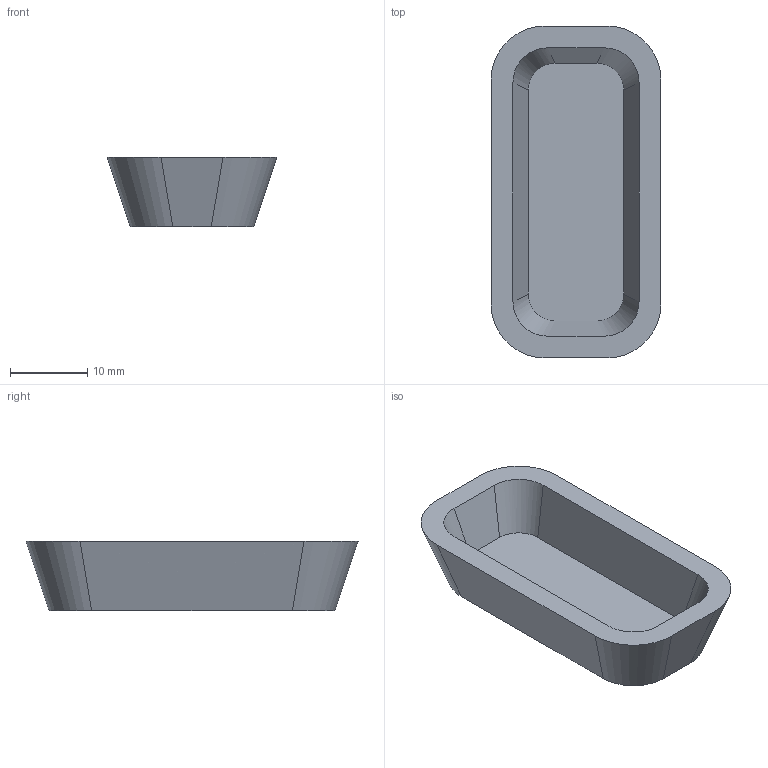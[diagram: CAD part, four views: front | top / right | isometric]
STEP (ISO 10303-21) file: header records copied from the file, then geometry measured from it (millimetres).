
FILE_DESCRIPTION(('Open CASCADE Model'),'2;1');
FILE_NAME('Open CASCADE Shape Model','2026-09-13T15:24:55',('Author'),( 'Open CASCADE'),'Open CASCADE STEP processor 7.9','build123d', 'Unknown');
FILE_SCHEMA(('AUTOMOTIVE_DESIGN { 1 0 10303 214 1 1 1 1 }'));
Length unit declared in the file: millimetre
Products named in the file (2): =>[0:1:1:2]; COMPOUND
Assembly tree (1 placements, depth 2):
  =>[0:1:1:2]
    COMPOUND
Bounding box: 22 x 43 x 9 mm (x, y, z)
Volume: 3194.1 mm3; surface area: 2961.9 mm2
Topology: 1 solids, 1 shells, 19 faces, 48 edges, 32 vertices
Faces by surface type: bspline 16, plane 3
Entity records: 1530 total; most frequent: CARTESIAN_POINT 645, DIRECTION 118, ORIENTED_EDGE 96, PCURVE 96, DEFINITIONAL_REPRESENTATION 96, LINE 72, VECTOR 72, EDGE_CURVE 48
